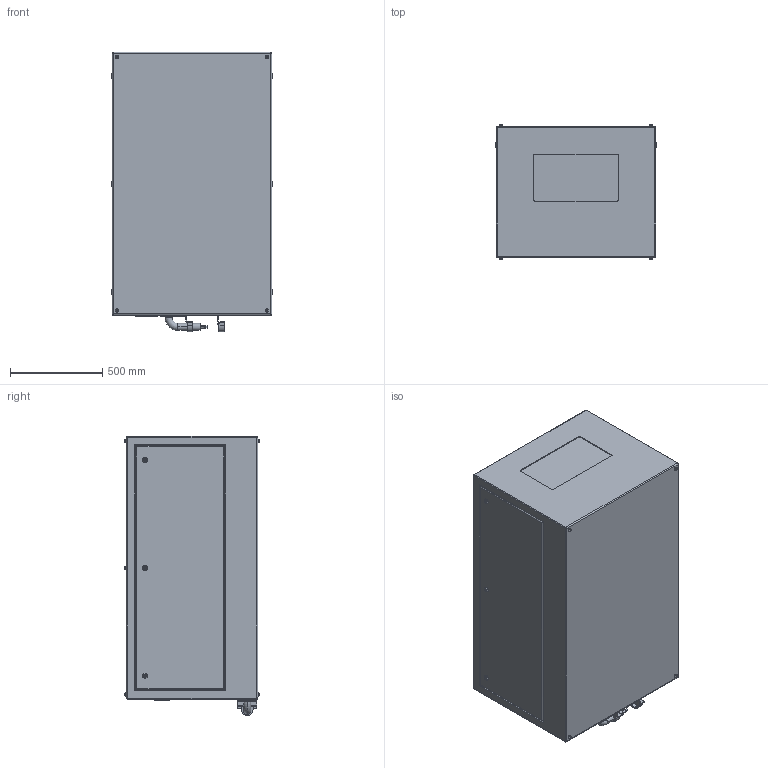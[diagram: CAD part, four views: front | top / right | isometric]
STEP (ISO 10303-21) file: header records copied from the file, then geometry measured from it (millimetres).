
FILE_DESCRIPTION (( 'STEP AP214' ), '1' );
FILE_NAME ('Oasis 59.310.L R02.STEP', '2022-09-12T23:41:26', ( '' ), ( '' ), 'SwSTEP 2.0', 'SolidWorks 2020', '' );
FILE_SCHEMA (( 'AUTOMOTIVE_DESIGN' ));
Length unit declared in the file: inch
Products named in the file (1): Oasis 59.310.L R02
Bounding box: 876.3 x 728.47 x 1511.3 mm (x, y, z)
Volume: 872873901.4 mm3; surface area: 6220239.1 mm2
Topology: 3 solids, 9 shells, 510 faces, 1167 edges, 740 vertices
Faces by surface type: plane 279, cylinder 177, torus 46, bspline 8
Entity records: 19451 total; most frequent: CARTESIAN_POINT 2930, DIRECTION 2543, ORIENTED_EDGE 2318, EDGE_CURVE 1159, AXIS2_PLACEMENT_3D 913, VERTEX_POINT 740, LINE 717, VECTOR 717
